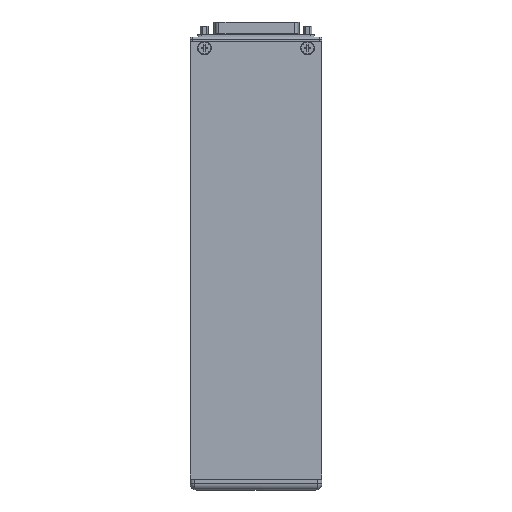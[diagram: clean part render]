
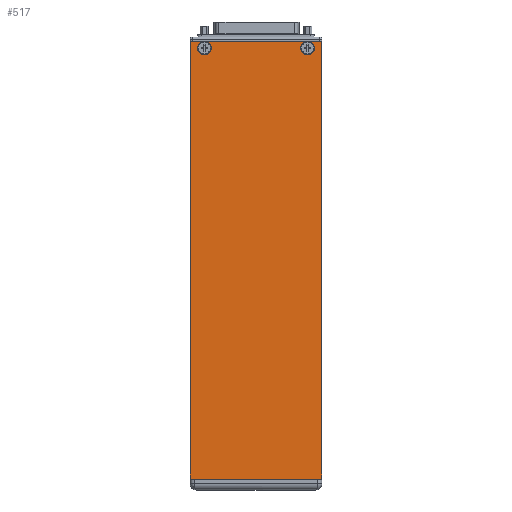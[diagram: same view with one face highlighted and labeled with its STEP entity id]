
A CAD part, front view. The second image highlights one B-rep face of the part: STEP entity #517.
In plain terms, the highlighted planar face has unit normal (0, -1, 0).
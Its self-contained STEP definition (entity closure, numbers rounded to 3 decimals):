
#197 = CARTESIAN_POINT ( 'NONE',  ( -30., -10., 0. ) ) ;
#517 = ADVANCED_FACE ( 'NONE', ( #8514 ), #35500, .T. ) ;
#522 = AXIS2_PLACEMENT_3D ( 'NONE', #28358, #18070, #38138 ) ;
#914 = EDGE_CURVE ( 'NONE', #5485, #43374, #6362, .T. ) ;
#1010 = CARTESIAN_POINT ( 'NONE',  ( 30., -10., -199. ) ) ;
#1424 = ORIENTED_EDGE ( 'NONE', *, *, #38581, .T. ) ;
#1956 = CARTESIAN_POINT ( 'NONE',  ( -24.46, -10., 0. ) ) ;
#2803 = VECTOR ( 'NONE', #34798, 1000. ) ;
#3004 = DIRECTION ( 'NONE',  ( 0., 0., -1. ) ) ;
#3086 = AXIS2_PLACEMENT_3D ( 'NONE', #27324, #37980, #34731 ) ;
#3344 = ORIENTED_EDGE ( 'NONE', *, *, #32327, .T. ) ;
#3503 = DIRECTION ( 'NONE',  ( -1., 0., 0. ) ) ;
#3828 = LINE ( 'NONE', #11198, #2803 ) ;
#3998 = VERTEX_POINT ( 'NONE', #18809 ) ;
#4193 = VERTEX_POINT ( 'NONE', #36779 ) ;
#4456 = VERTEX_POINT ( 'NONE', #1956 ) ;
#5158 = AXIS2_PLACEMENT_3D ( 'NONE', #34715, #41620, #24500 ) ;
#5485 = VERTEX_POINT ( 'NONE', #26177 ) ;
#6362 = CIRCLE ( 'NONE', #3086, 3.15 ) ;
#7246 = EDGE_CURVE ( 'NONE', #3998, #40737, #36780, .T. ) ;
#7353 = CIRCLE ( 'NONE', #522, 3.15 ) ;
#8514 = FACE_OUTER_BOUND ( 'NONE', #36364, .T. ) ;
#8720 = ORIENTED_EDGE ( 'NONE', *, *, #7246, .T. ) ;
#8962 = CARTESIAN_POINT ( 'NONE',  ( -30., -10., -199. ) ) ;
#10162 = CARTESIAN_POINT ( 'NONE',  ( -30., -10., 0. ) ) ;
#10885 = CARTESIAN_POINT ( 'NONE',  ( -23.5, -10., -6.15 ) ) ;
#11198 = CARTESIAN_POINT ( 'NONE',  ( -30., -10., 0. ) ) ;
#11530 = EDGE_CURVE ( 'NONE', #4193, #37455, #12326, .T. ) ;
#12208 = DIRECTION ( 'NONE',  ( 0., -1., 0. ) ) ;
#12326 = CIRCLE ( 'NONE', #5158, 3.15 ) ;
#13346 = LINE ( 'NONE', #1010, #38638 ) ;
#13563 = ORIENTED_EDGE ( 'NONE', *, *, #25952, .T. ) ;
#13888 = EDGE_CURVE ( 'NONE', #40737, #14003, #13346, .T. ) ;
#14003 = VERTEX_POINT ( 'NONE', #21628 ) ;
#14250 = ORIENTED_EDGE ( 'NONE', *, *, #23323, .T. ) ;
#14369 = VECTOR ( 'NONE', #3503, 1000. ) ;
#14507 = CARTESIAN_POINT ( 'NONE',  ( 24.46, -10., 0. ) ) ;
#14591 = ORIENTED_EDGE ( 'NONE', *, *, #42979, .T. ) ;
#14695 = DIRECTION ( 'NONE',  ( 0., 0., 1. ) ) ;
#15070 = VECTOR ( 'NONE', #3004, 1000. ) ;
#15342 = DIRECTION ( 'NONE',  ( 1., 0., 0. ) ) ;
#16256 = ORIENTED_EDGE ( 'NONE', *, *, #13888, .T. ) ;
#16289 = ORIENTED_EDGE ( 'NONE', *, *, #914, .T. ) ;
#16418 = CARTESIAN_POINT ( 'NONE',  ( -30., -10., -199. ) ) ;
#17487 = EDGE_CURVE ( 'NONE', #43374, #4456, #7353, .T. ) ;
#18070 = DIRECTION ( 'NONE',  ( 0., 1., 0. ) ) ;
#18809 = CARTESIAN_POINT ( 'NONE',  ( -30., -10., -199. ) ) ;
#19844 = CARTESIAN_POINT ( 'NONE',  ( 30., -10., -199. ) ) ;
#21628 = CARTESIAN_POINT ( 'NONE',  ( 30., -10., 0. ) ) ;
#21871 = VERTEX_POINT ( 'NONE', #14507 ) ;
#22376 = AXIS2_PLACEMENT_3D ( 'NONE', #30588, #27317, #24235 ) ;
#23323 = EDGE_CURVE ( 'NONE', #21871, #4193, #32058, .T. ) ;
#24235 = DIRECTION ( 'NONE',  ( 0., 0., -1. ) ) ;
#24500 = DIRECTION ( 'NONE',  ( 0., 0., -1. ) ) ;
#24855 = LINE ( 'NONE', #37719, #14369 ) ;
#25952 = EDGE_CURVE ( 'NONE', #4456, #36404, #31278, .T. ) ;
#26177 = CARTESIAN_POINT ( 'NONE',  ( -22.54, -10., 0. ) ) ;
#27317 = DIRECTION ( 'NONE',  ( 0., 1., 0. ) ) ;
#27324 = CARTESIAN_POINT ( 'NONE',  ( -23.5, -10., -3. ) ) ;
#27375 = DIRECTION ( 'NONE',  ( -1., 0., 0. ) ) ;
#28358 = CARTESIAN_POINT ( 'NONE',  ( -23.5, -10., -3. ) ) ;
#30588 = CARTESIAN_POINT ( 'NONE',  ( 23.5, -10., -3. ) ) ;
#31278 = LINE ( 'NONE', #197, #40299 ) ;
#32058 = CIRCLE ( 'NONE', #22376, 3.15 ) ;
#32327 = EDGE_CURVE ( 'NONE', #36404, #3998, #37754, .T. ) ;
#32378 = CARTESIAN_POINT ( 'NONE',  ( -30., -10., -199. ) ) ;
#34715 = CARTESIAN_POINT ( 'NONE',  ( 23.5, -10., -3. ) ) ;
#34731 = DIRECTION ( 'NONE',  ( 0., 0., -1. ) ) ;
#34798 = DIRECTION ( 'NONE',  ( -1., 0., 0. ) ) ;
#35500 = PLANE ( 'NONE',  #37123 ) ;
#35795 = DIRECTION ( 'NONE',  ( 0., 0., -1. ) ) ;
#36364 = EDGE_LOOP ( 'NONE', ( #1424, #16289, #40200, #13563, #3344, #8720, #16256, #14591, #14250, #40774 ) ) ;
#36404 = VERTEX_POINT ( 'NONE', #10162 ) ;
#36779 = CARTESIAN_POINT ( 'NONE',  ( 23.5, -10., -6.15 ) ) ;
#36780 = LINE ( 'NONE', #8962, #38872 ) ;
#37123 = AXIS2_PLACEMENT_3D ( 'NONE', #32378, #12208, #35795 ) ;
#37455 = VERTEX_POINT ( 'NONE', #39797 ) ;
#37719 = CARTESIAN_POINT ( 'NONE',  ( -30., -10., 0. ) ) ;
#37754 = LINE ( 'NONE', #16418, #15070 ) ;
#37980 = DIRECTION ( 'NONE',  ( 0., 1., 0. ) ) ;
#38138 = DIRECTION ( 'NONE',  ( 0., 0., -1. ) ) ;
#38581 = EDGE_CURVE ( 'NONE', #37455, #5485, #24855, .T. ) ;
#38638 = VECTOR ( 'NONE', #14695, 1000. ) ;
#38872 = VECTOR ( 'NONE', #15342, 1000. ) ;
#39797 = CARTESIAN_POINT ( 'NONE',  ( 22.54, -10., 0. ) ) ;
#40200 = ORIENTED_EDGE ( 'NONE', *, *, #17487, .T. ) ;
#40299 = VECTOR ( 'NONE', #27375, 1000. ) ;
#40737 = VERTEX_POINT ( 'NONE', #19844 ) ;
#40774 = ORIENTED_EDGE ( 'NONE', *, *, #11530, .T. ) ;
#41620 = DIRECTION ( 'NONE',  ( 0., 1., 0. ) ) ;
#42979 = EDGE_CURVE ( 'NONE', #14003, #21871, #3828, .T. ) ;
#43374 = VERTEX_POINT ( 'NONE', #10885 ) ;
